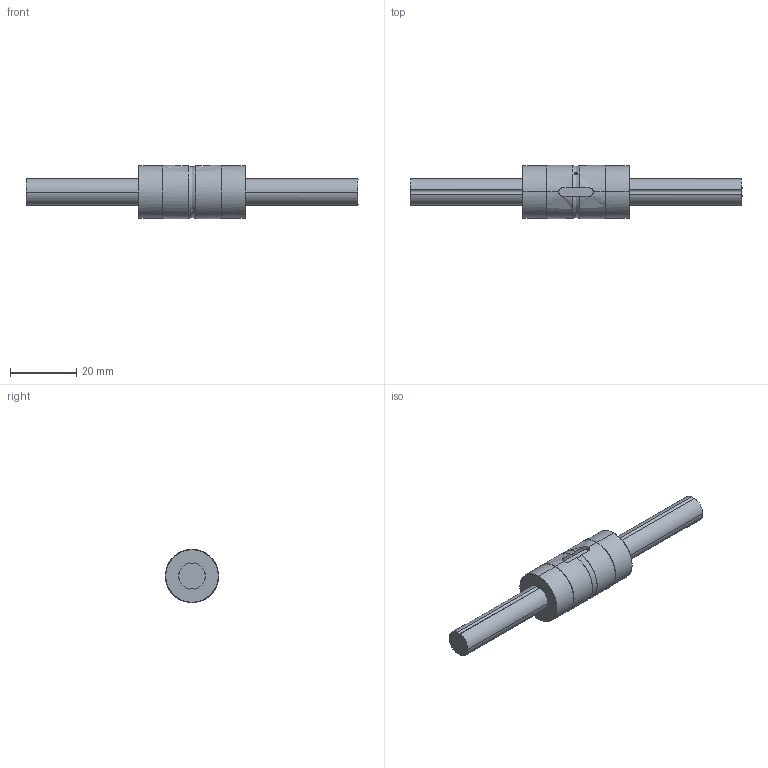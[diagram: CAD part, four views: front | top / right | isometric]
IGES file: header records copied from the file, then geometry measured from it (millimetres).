
Global section: file name: No Iges File Name specified; native system: AutoDesk Inventor R11.0; preprocessor: AutoDesk Inventor Iges Exporter R11.0; author: No Author specified; organization: No Organization specified; date: 20150223.132616; units: millimetre
Bounding box: 100 x 16 x 16 mm (x, y, z)
Surface area: 5412.6 mm2 (no closed solid volume)
Topology: 0 solids, 0 shells, 36 faces, 276 edges, 276 vertices
Faces by surface type: bspline 36
